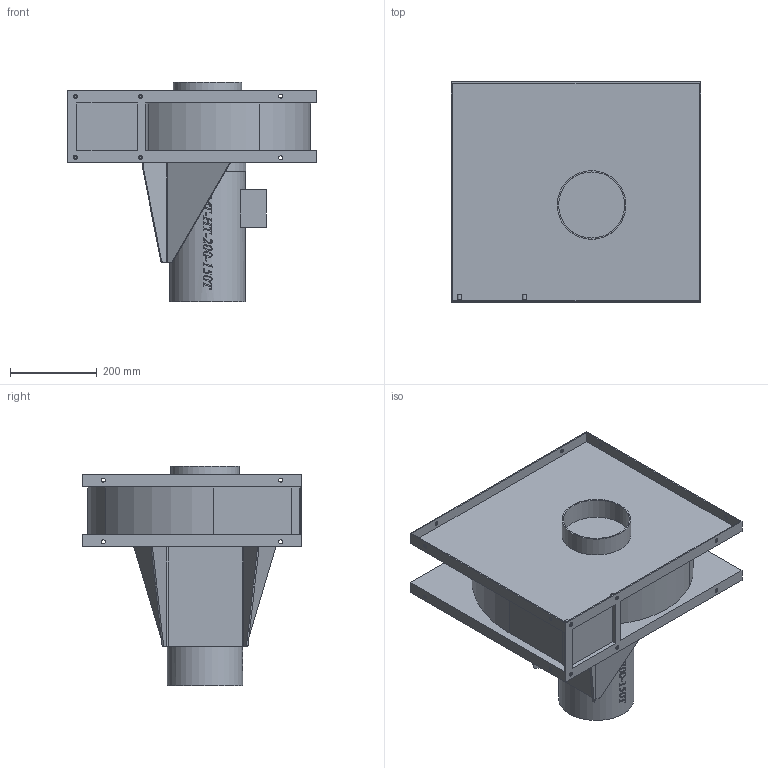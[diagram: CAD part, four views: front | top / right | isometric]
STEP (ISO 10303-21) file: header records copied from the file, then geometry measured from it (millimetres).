
FILE_DESCRIPTION(/* description */ (''),/* implementation_level */ '2;1');
FILE_NAME(/* name */ 'E:\Mariusz\Modele uproszczone\GMT-HT\Katalogowe\GMT_HT_200_150T RD270 43552445\GMT_HT_200_150T RD270 43552445\GMT_HT_200_150T RD270 43552445.stp',/* time_stamp */ '2019-11-04T13:18:50+01:00',/* author */ ('m.janczarek'),/* organization */ (''),/* preprocessor_version */ 'ST-DEVELOPER v16.13',/* originating_system */ 'Autodesk Inventor 2018',/* authorisation */ '');
FILE_SCHEMA (('AUTOMOTIVE_DESIGN { 1 0 10303 214 3 1 1 }'));
Products named in the file (1): GMT_HT_200_150T RD270 43552445
Bounding box: 574 x 506 x 505.5 mm (x, y, z)
Volume: 34940982.4 mm3; surface area: 1659287.8 mm2
Topology: 1 solids, 1 shells, 935 faces, 2610 edges, 1735 vertices
Faces by surface type: bspline 661, plane 162, cylinder 100, cone 12
Full cylindrical faces by diameter (mm): 6 x4, 7 x4, 8.9 x4, 9.2 x18, 152 x1, 158 x1, 173.6 x1, 177 x1, 393 x1
Entity records: 41578 total; most frequent: CARTESIAN_POINT 21436, ORIENTED_EDGE 5110, EDGE_CURVE 2555, DIRECTION 2257, VERTEX_POINT 1728, B_SPLINE_CURVE_WITH_KNOTS 1148, LINE 1107, VECTOR 1107
